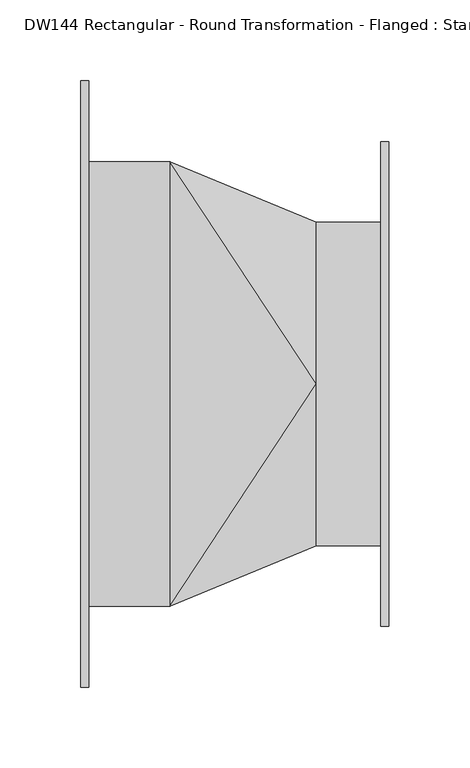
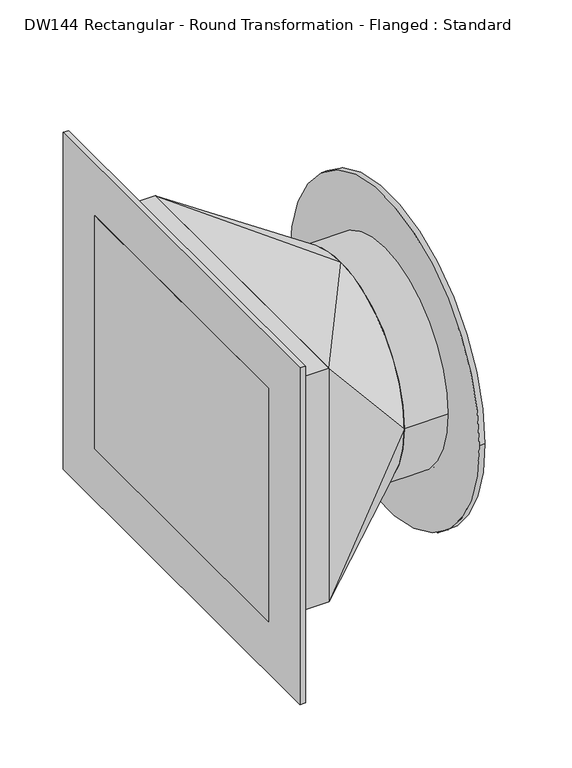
"""IFC4 building model written with IfcOpenShell, lengths in millimetres: duct fitting geometry, DW144 Rectangular - Round Transformation - Flanged : Standard."""

from ifc_helpers import new_model, si_unit, point, frame, origin, origin_2d, place, context, project, spatial, polyline, circle_curve, trimmed, segment, composite_curve, outline, extrude, source, transform, mapped, element, save
from ifc_brep_helpers import plane_surface, spline_surface, advanced_brep


def dw144_rectangular_round_transformation_flanged_standard_fd602c41(model_context):
    return source(origin(), model_context, "Body", "SolidModel", [
        extrude(outline(composite_curve([segment(trimmed(circle_curve(origin_2d(), 100.0), [point((-100.0, 0.0))], [point((100.0, 0.0))], False, "CARTESIAN"), True, "CONTINUOUS"), segment(trimmed(circle_curve(origin_2d(), 100.0), [point((100.0, 0.0))], [point((-100.0, 0.0))], False, "CARTESIAN"), True, "CONTINUOUS")], self_intersect=False)), frame((145.5330086, 0.0, 0.0), z_axis=(1.0, 0.0, 0.0), x_axis=(0.0, 1.0, 0.0)), (0.0, 0.0, 1.0), 45.0),
        extrude(outline(polyline([(55.0, 137.5), (55.0, -137.5), (0.0, -137.5), (0.0, 137.5), (55.0, 137.5)])), frame((0.0, 0.0, -112.5), z_axis=(0.0, 0.0, 1.0), x_axis=(1.0, 0.0, 0.0)), (0.0, 0.0, 1.0), 225.0),
        advanced_brep(
        [(145.5330086, 0.0, 100.0), (145.5330086, -100.0, 0.0), (145.5330086, 0.0, -100.0), (145.5330086, 100.0, 0.0), (55.0, -137.5, 112.5), (55.0, 137.5, 112.5), (55.0, 137.5, -112.5), (55.0, -137.5, -112.5)],
        [
            (0, 1, circle_curve(frame((145.5330086, 0.0, 0.0), z_axis=(1.0, 0.0, 0.0), x_axis=(0.0, 1.0, 0.0)), 100.0)),
            (1, 2, circle_curve(frame((145.5330086, 0.0, 0.0), z_axis=(1.0, 0.0, 0.0), x_axis=(0.0, 1.0, 0.0)), 100.0)),
            (2, 3, circle_curve(frame((145.5330086, 0.0, 0.0), z_axis=(1.0, 0.0, 0.0), x_axis=(0.0, 1.0, 0.0)), 100.0)),
            (3, 0, circle_curve(frame((145.5330086, 0.0, 0.0), z_axis=(1.0, 0.0, 0.0), x_axis=(0.0, 1.0, 0.0)), 100.0)),
            (4, 5),
            (5, 6),
            (6, 7),
            (7, 4),
            (0, 4),
            (4, 1),
            (7, 1),
            (7, 2),
            (6, 2),
            (6, 3),
            (5, 3),
            (5, 0),
        ],
        [
            plane_surface(frame((145.5330086, 0.0, 0.0), z_axis=(1.0, 0.0, 0.0), x_axis=(0.0, 0.0, -1.0))),
            plane_surface(frame((55.0, 0.0, 0.0), z_axis=(-1.0, 0.0, 0.0), x_axis=(0.0, 0.0, -1.0))),
            spline_surface(2, 1, [[(55.0, -137.5, 112.5), (145.5330086, 0.0, 100.0)], [(55.0, -137.5, 112.5), (145.5330086, -100.0, 100.0)], [(55.0, -137.5, 112.5), (145.5330086, -100.0, 0.0)]], [3, 3], [2, 2], [0.0, 1.0], [0.0, 1.0], weights=[[1.0, 1.0], [0.7071067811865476, 0.7071067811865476], [1.0, 1.0]]),
            plane_surface(frame((55.0, -137.5, 0.0), z_axis=(0.3826834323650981, -0.9238795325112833, 0.0), x_axis=(0.0, 0.0, -1.0))),
            spline_surface(2, 1, [[(55.0, -137.5, -112.5), (145.5330086, -100.0, 0.0)], [(55.0, -137.5, -112.5), (145.5330086, -100.0, -100.0)], [(55.0, -137.5, -112.5), (145.5330086, 0.0, -100.0)]], [3, 3], [2, 2], [0.0, 1.0], [0.0, 1.0], weights=[[1.0, 1.0], [0.7071067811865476, 0.7071067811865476], [1.0, 1.0]]),
            plane_surface(frame((55.0, 0.0, -112.5), z_axis=(0.13677363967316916, 0.0, -0.990602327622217), x_axis=(0.0, 1.0, 0.0))),
            spline_surface(2, 1, [[(55.0, 137.5, -112.5), (145.5330086, 0.0, -100.0)], [(55.0, 137.5, -112.5), (145.5330086, 100.0, -100.0)], [(55.0, 137.5, -112.5), (145.5330086, 100.0, 0.0)]], [3, 3], [2, 2], [0.0, 1.0], [0.0, 1.0], weights=[[1.0, 1.0], [0.7071067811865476, 0.7071067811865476], [1.0, 1.0]]),
            plane_surface(frame((55.0, 137.5, 0.0), z_axis=(0.38268343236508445, 0.923879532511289, 0.0), x_axis=(0.0, 0.0, 1.0))),
            spline_surface(2, 1, [[(55.0, 137.5, 112.5), (145.5330086, 100.0, 0.0)], [(55.0, 137.5, 112.5), (145.5330086, 100.0, 100.0)], [(55.0, 137.5, 112.5), (145.5330086, 0.0, 100.0)]], [3, 3], [2, 2], [0.0, 1.0], [0.0, 1.0], weights=[[1.0, 1.0], [0.7071067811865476, 0.7071067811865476], [1.0, 1.0]]),
            plane_surface(frame((55.0, 0.0, 112.5), z_axis=(0.13677363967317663, 0.0, 0.990602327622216), x_axis=(0.0, -1.0, 0.0))),
        ],
        [
            (0, [[1, 2, 3, 4]]),
            (1, [[5, 6, 7, 8]]),
            (2, [[-1, 9, 10]]),
            (3, [[-8, 11, -10]]),
            (4, [[-2, -11, 12]]),
            (5, [[-7, 13, -12]]),
            (6, [[-3, -13, 14]]),
            (7, [[-6, 15, -14]]),
            (8, [[-4, -15, 16]]),
            (9, [[-5, -9, -16]]),
        ],
    ),
        extrude(outline(composite_curve([segment(trimmed(circle_curve(origin_2d(), 150.0), [point((-150.0, 0.0))], [point((150.0, 0.0))], False, "CARTESIAN"), True, "CONTINUOUS"), segment(trimmed(circle_curve(origin_2d(), 150.0), [point((150.0, 0.0))], [point((-150.0, 0.0))], False, "CARTESIAN"), True, "CONTINUOUS")], self_intersect=False)), frame((185.5330086, 0.0, 0.0), z_axis=(1.0, 0.0, 0.0), x_axis=(0.0, 1.0, 0.0)), (0.0, 0.0, 1.0), 5.0),
        extrude(outline(polyline([(5.0, 187.5), (5.0, -187.5), (0.0, -187.5), (0.0, 187.5), (5.0, 187.5)])), frame((0.0, 0.0, -162.5), z_axis=(0.0, 0.0, 1.0), x_axis=(1.0, 0.0, 0.0)), (0.0, 0.0, 1.0), 325.0),
    ])


if __name__ == "__main__":
    model = new_model("IFC4")
    model_context = context("Model", 3, world=origin())
    ifc_project = project(units=[si_unit("LENGTHUNIT", "METRE", prefix="MILLI")], contexts=[model_context])
    site = spatial("IfcSite", under=ifc_project)
    building = spatial("IfcBuilding", under=site)
    placement = place(None, origin())
    dw144_rectangular_round_transformation_flanged_standard_shape = dw144_rectangular_round_transformation_flanged_standard_fd602c41(model_context)
    element("IfcDuctFitting", 1, ObjectType="DW144 Rectangular - Round Transformation - Flanged : Standard", at=placement, inside=building, context=model_context, shape_type="MappedRepresentation", body=[
        mapped(dw144_rectangular_round_transformation_flanged_standard_shape, transform((0.0, 0.0, 0.0), x_axis=(1.0, 0.0, 0.0), y_axis=(0.0, 1.0, 0.0), z_axis=(0.0, 0.0, 1.0))),
    ])
    save(model, "model.ifc")
